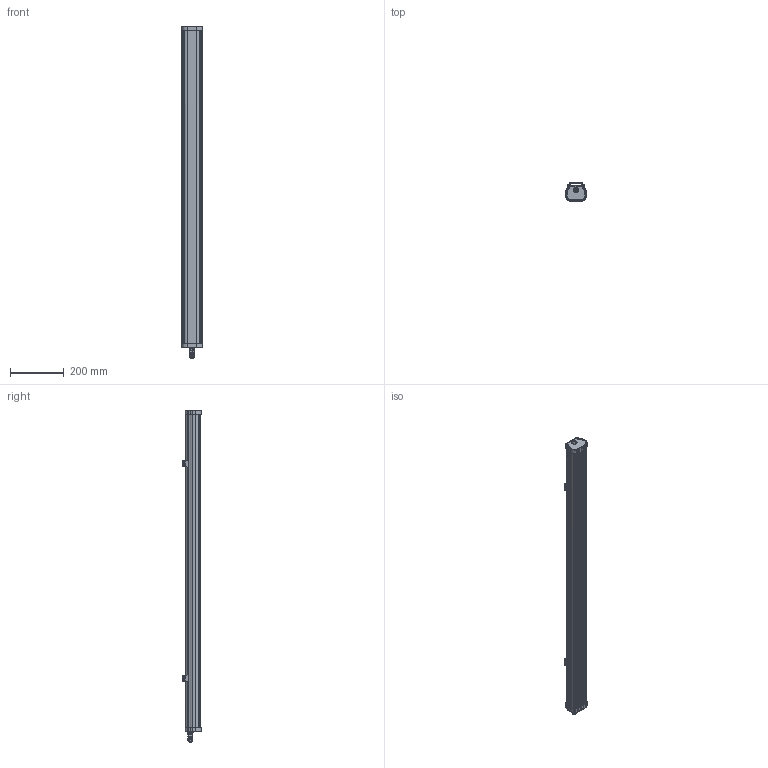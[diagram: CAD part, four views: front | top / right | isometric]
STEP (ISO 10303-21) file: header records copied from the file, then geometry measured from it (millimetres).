
FILE_DESCRIPTION(('Creo Elements/Direct Modeling STEP Export'),'2;1');
FILE_NAME('TP28_1200mm.stp','2020-05-28T14:55:39',(''),(''),'PTC Creo Elements/Direct Modeling STEP processor for AP214 (Solid Model)','PTC Creo Elements/Direct Modeling 19.0E 27-Jun-2016 (C) Parametric Technology GmbH','');
FILE_SCHEMA(('AUTOMOTIVE_DESIGN { 1 0 10303 214 1 1 1 1 }'));
Length unit declared in the file: millimetre
Products named in the file (6): Board; holder; casing; cap; cap1; TP28_1200mm
Assembly tree (6 placements, depth 2):
  TP28_1200mm
    cap1
    cap
    casing
    holder  x2
    Board
Bounding box: 78.2 x 69.3 x 1237.4 mm (x, y, z)
Volume: 411570.4 mm3; surface area: 891146.7 mm2
Topology: 6 solids, 8 shells, 3036 faces, 7970 edges, 5144 vertices
Faces by surface type: plane 2108, cylinder 638, torus 120, cone 68, bspline 66, extrusion 36
Entity records: 100776 total; most frequent: CARTESIAN_POINT 31359, ORIENTED_EDGE 14980, DIRECTION 13249, EDGE_CURVE 7490, VECTOR 5457, LINE 5420, VERTEX_POINT 4864, AXIS2_PLACEMENT_3D 3896
